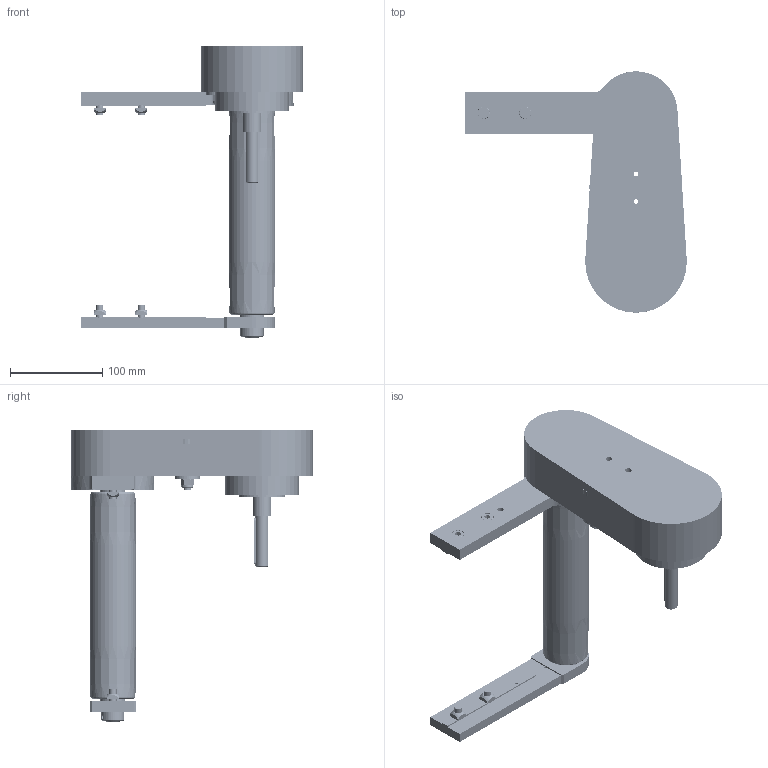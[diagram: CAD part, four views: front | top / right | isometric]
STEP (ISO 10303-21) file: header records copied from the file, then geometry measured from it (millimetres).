
FILE_DESCRIPTION (( 'STEP AP203' ), '1' );
FILE_NAME ('084.050.KTC.30.200.step', '2014-02-18T11:35:52', ( '' ), ( '' ), 'SwSTEP 2.0', 'SolidWorks 2012', '' );
FILE_SCHEMA (( 'CONFIG_CONTROL_DESIGN' ));
Products named in the file (26): 084.050.KTC.30.200; CHIAVETTE_A 5x5x50 UNI 6604-69; 084.302.000 DADI ALUSIC 13x13_084.302.004; 084.301.000 VITI ALUSIC_084.301.003; 084.810.005; ISO 7040-M8-S_ISO 7040-M8-S; Washer ISO 7094 - 8_Washer ISO 7094 - 8; Circlip DIN 471 - 8 x 0.8_Circlip DIN 471 - 8 x 0.8; CUSCINETTI A SFERE_608-2RS; 084.810.004; 084.810.007; 084.809.003; 084.809.001; 084.803.012; 084.802.021; 084.813.006; 084.809.004; 084.803.014; 084.807.002_084.807.002; 084.807.001_084.807.001; 084.802.017_084.802.017; 084.802.034_084.802.034; 084.810.001; 084.813.001; 084.811.004; 084.815.103_Default<A macchina>
Assembly tree (34 placements, depth 3):
  084.050.KTC.30.200
    084.815.103_Default<A macchina>
    084.811.004
    084.813.001
    084.810.001  x2
    084.802.034_084.802.034
    084.802.017_084.802.017
    084.807.001_084.807.001
    084.807.002_084.807.002
    084.803.014  x2
    084.809.004
    084.813.006
    084.802.021
    084.803.012
    084.809.001
    084.809.003
    084.810.005
      084.810.007
      084.810.004
      CUSCINETTI A SFERE_608-2RS  x2
      Circlip DIN 471 - 8 x 0.8_Circlip DIN 471 - 8 x 0.8
      Washer ISO 7094 - 8_Washer ISO 7094 - 8
      ISO 7040-M8-S_ISO 7040-M8-S
    084.301.000 VITI ALUSIC_084.301.003  x4
    084.302.000 DADI ALUSIC 13x13_084.302.004  x4
    CHIAVETTE_A 5x5x50 UNI 6604-69
Bounding box: 240 x 261.5 x 316 mm (x, y, z)
Volume: 898030.7 mm3; surface area: 484772.6 mm2
Topology: 63 solids, 64 shells, 2931 faces, 6883 edges, 4392 vertices
Faces by surface type: cylinder 1457, plane 718, bspline 468, cone 185, torus 94, sphere 9
Entity records: 83978 total; most frequent: CARTESIAN_POINT 18907, DIRECTION 14154, ORIENTED_EDGE 12236, EDGE_CURVE 6118, AXIS2_PLACEMENT_3D 5980, VERTEX_POINT 3893, CIRCLE 3769, EDGE_LOOP 3225
